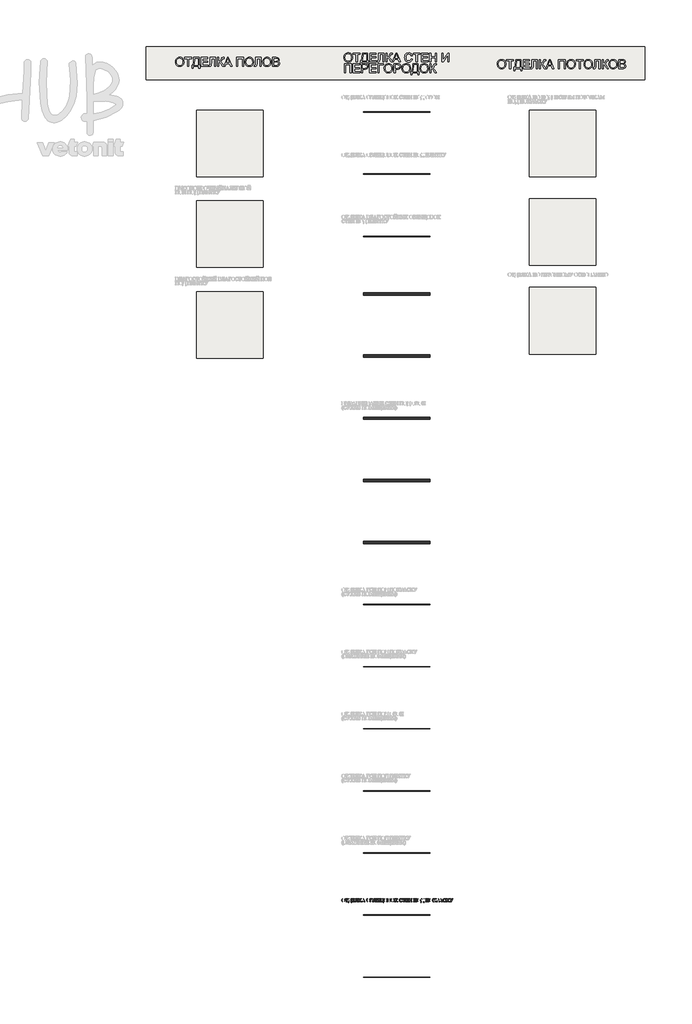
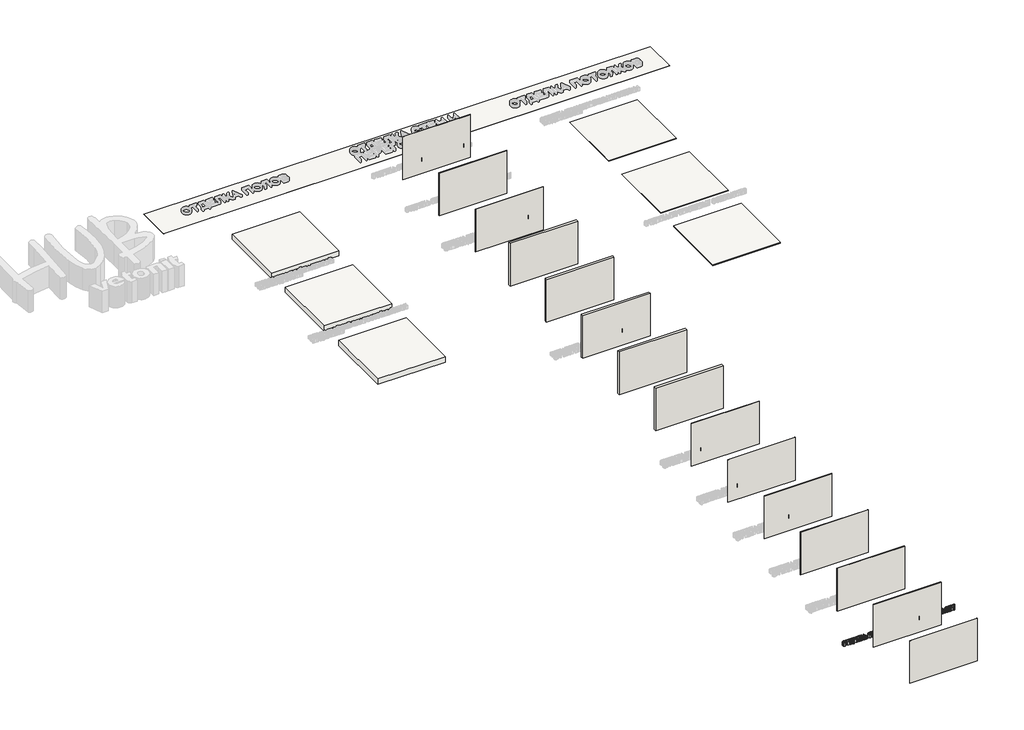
# One storey, part 1 of 17: 15 walls, 6 slabs, 1 covering, 1 proxy.
"""IFC4 building model written with IfcOpenShell, lengths in millimetres."""

from ifc_helpers import new_model, si_unit, frame, origin, origin_with_axes, place, context, project, spatial, polyline, outline, extrude, element, save

model = new_model("IFC4")

# Units and contexts
model_context = context("Model", 3, world=origin())
ifc_project = project(units=[si_unit("LENGTHUNIT", "METRE", prefix="MILLI")], contexts=[model_context])

# Site, building, storey
site = spatial("IfcSite", under=ifc_project)
building = spatial("IfcBuilding", under=site)
storey = spatial("IfcBuildingStorey", under=building, Name="Уровень 1", Elevation=0.0)

# Proxy
placement = place(None, origin())
element("IfcBuildingElementProxy", 1, Name="SG_Текст 2", ObjectType="SG_Текст 2", at=placement, inside=storey, context=model_context, shape_type="SweptSolid", body=[
    extrude(outline(polyline([(-694.4542029, -18582.7236426), (-666.748358, -18588.1843591), (-643.0048009, -18604.5665084), (-626.682991, -18629.1145909), (-621.2423877, -18659.0731071), (-626.7232173, -18689.8814032), (-643.165706, -18714.9675122), (-667.3919784, -18731.6362737), (-696.2241589, -18737.1925275), (-725.2021597, -18731.7720373), (-749.1418199, -18715.5105669), (-765.2071873, -18690.6406741), (-770.5623098, -18659.3949173), (-769.0161124, -18642.6230759), (-764.3775204, -18627.4653138), (-756.6465337, -18613.9216308), (-745.8231524, -18601.992027), (-722.2405004, -18587.5407387), (-694.4542029, -18582.7236426)]), holes=[polyline([(-696.5861954, -18590.4470869), (-715.0299411, -18594.1277908), (-729.4108334, -18605.1699025), (-740.9658301, -18627.7670108), (-744.8174956, -18658.8719757), (-740.8250381, -18690.9122015), (-728.8476656, -18714.6255889), (-714.6176218, -18725.7582097), (-696.4655165, -18729.4690833), (-676.8552089, -18725.4062298), (-660.9859445, -18713.2176693), (-650.4868875, -18692.2698381), (-646.9872019, -18661.9291724), (-650.8388674, -18628.7827242), (-662.3938641, -18605.2905813), (-677.1166797, -18594.1579605), (-696.5861954, -18590.4470869)])]), origin_with_axes(), (0.0, 0.0, 1.0), 150.0),
    extrude(outline(polyline([(-482.2203913, -18585.2981241), (-479.6459099, -18618.7663824), (-483.8294422, -18618.7663824), (-487.2486753, -18605.4917127), (-496.6012836, -18596.0586518), (-512.028059, -18593.0215683), (-533.7100196, -18593.0215683), (-533.7100196, -18708.873232), (-530.813728, -18727.1359595), (-518.1826786, -18732.0435647), (-513.1141683, -18732.0435647), (-513.1141683, -18734.6180461), (-574.9017223, -18734.6180461), (-574.9017223, -18732.0435647), (-569.7527594, -18732.0435647), (-561.8784667, -18730.5250229), (-556.679221, -18725.9693976), (-554.3058709, -18708.873232), (-554.3058709, -18593.0215683), (-572.1663357, -18593.0215683), (-586.9696039, -18594.5501666), (-596.744588, -18602.6155342), (-601.5717407, -18618.7663824), (-605.7954992, -18618.7663824), (-603.2210178, -18585.2981241), (-482.2203913, -18585.2981241)])), origin_with_axes(), (0.0, 0.0, 1.0), 150.0),
    extrude(outline(polyline([(-448.7521329, -18585.2981241), (-325.1770251, -18585.2981241), (-325.1770251, -18590.4470869), (-342.0921725, -18594.8317505), (-345.7728764, -18613.4162883), (-345.7728764, -18695.6387884), (-343.0173767, -18725.1246459), (-337.179539, -18729.3484045), (-325.1770251, -18730.756324), (-325.1770251, -18778.3842301), (-330.3259879, -18778.3842301), (-340.6038004, -18751.6136461), (-348.1763961, -18743.1409875), (-356.6943092, -18738.0372792), (-378.235478, -18734.6180461), (-415.0827432, -18734.6180461), (-436.0506875, -18738.0674489), (-450.6025415, -18748.4156574), (-459.6735658, -18762.8066063), (-464.1990214, -18778.3842301), (-469.3479843, -18778.3842301), (-469.3479843, -18730.756324), (-453.9966332, -18724.7123266), (-441.813101, -18709.6375311), (-432.837614, -18687.8147785), (-427.1103986, -18661.5269097), (-423.0073188, -18614.7437552), (-425.8633841, -18598.6532464), (-432.641511, -18592.1969297), (-448.7521329, -18590.4470869), (-448.7521329, -18585.2981241)]), holes=[polyline([(-410.1349117, -18593.0215683), (-414.0971995, -18648.9411148), (-420.5132899, -18685.2402971), (-429.4636355, -18708.8983734), (-441.0286887, -18726.8946019), (-386.6427688, -18726.8946019), (-369.2449061, -18724.3000073), (-366.3687277, -18707.3848599), (-366.3687277, -18593.0215683), (-410.1349117, -18593.0215683)])]), origin_with_axes(), (0.0, 0.0, 1.0), 150.0),
    extrude(outline(polyline([(-276.2618782, -18593.0215683), (-276.2618782, -18652.2346408), (-240.2191384, -18652.2346408), (-223.3643304, -18648.5740501), (-218.949497, -18641.9266586), (-217.0488056, -18631.6387895), (-214.4743242, -18631.6387895), (-214.4743242, -18680.5539364), (-217.0488056, -18680.5539364), (-220.1060023, -18667.6010768), (-226.5019796, -18661.9895118), (-240.2191384, -18659.9580851), (-276.2618782, -18659.9580851), (-276.2618782, -18709.919115), (-275.3366739, -18722.1479017), (-272.098459, -18725.6073611), (-263.3492448, -18726.8946019), (-236.7999052, -18726.8946019), (-217.5114078, -18725.0441933), (-205.9463545, -18717.7230118), (-191.3039915, -18696.0008249), (-186.1550287, -18696.0008249), (-199.7515086, -18734.6180461), (-317.4535808, -18734.6180461), (-317.4535808, -18732.0435647), (-312.3448443, -18732.0435647), (-302.6905389, -18729.3886307), (-298.0846308, -18723.8977446), (-296.8577295, -18708.873232), (-296.8577295, -18611.0429382), (-299.6333423, -18592.538853), (-312.3448443, -18587.8726055), (-317.4535808, -18587.8726055), (-317.4535808, -18585.2981241), (-201.6019172, -18585.2981241), (-199.0274357, -18618.7663824), (-204.1763986, -18618.7663824), (-209.4460402, -18601.7908956), (-218.0142362, -18594.751298), (-234.0242925, -18593.0215683), (-276.2618782, -18593.0215683)])), origin_with_axes(), (0.0, 0.0, 1.0), 150.0),
    extrude(outline(polyline([(-72.8778464, -18593.0215683), (-119.2185119, -18593.0215683), (-119.2185119, -18635.2189277), (-122.0041812, -18687.8902028), (-130.3611893, -18718.1453877), (-143.6157459, -18732.4307426), (-161.0940612, -18737.1925275), (-173.926242, -18733.2101266), (-178.4315844, -18723.958084), (-175.5352928, -18716.9788258), (-168.4956952, -18714.0221948), (-160.5711196, -18717.6827855), (-151.5202084, -18721.745639), (-142.6855134, -18717.7481532), (-135.650944, -18705.7556959), (-131.0500642, -18682.6105046), (-129.5164376, -18645.1548169), (-129.5164376, -18613.6978722), (-133.1971414, -18594.8719768), (-150.1122889, -18590.4470869), (-150.1122889, -18585.2981241), (-31.6861438, -18585.2981241), (-31.6861438, -18587.8726055), (-48.6012912, -18592.2773823), (-52.2819951, -18611.0429382), (-52.2819951, -18708.873232), (-48.6012912, -18727.6387879), (-31.6861438, -18732.0435647), (-31.6861438, -18734.6180461), (-93.4736977, -18734.6180461), (-93.4736977, -18732.0435647), (-76.5585503, -18727.6387879), (-72.8778464, -18708.873232), (-72.8778464, -18593.0215683)])), origin_with_axes(), (0.0, 0.0, 1.0), 150.0),
    extrude(outline(polyline([(121.4150478, -18730.5149663), (121.4150478, -18734.6180461), (82.4357901, -18734.6180461), (55.6450929, -18696.7852372), (30.7450305, -18665.8110077), (17.2290031, -18662.5325665), (17.2290031, -18708.873232), (20.8493676, -18727.6387879), (37.8248544, -18732.0435647), (37.8248544, -18734.6180461), (-23.9626996, -18734.6180461), (-23.9626996, -18732.0435647), (-7.0877784, -18727.6790142), (-3.3668482, -18708.873232), (-3.3668482, -18611.0429382), (-7.0475521, -18592.2773823), (-23.9626996, -18587.8726055), (-23.9626996, -18585.2981241), (37.8248544, -18585.2981241), (37.8248544, -18587.8726055), (20.8493676, -18592.2773823), (17.2290031, -18611.0429382), (17.2290031, -18654.8091223), (34.1039242, -18653.1799582), (44.6432075, -18646.2610394), (53.9153632, -18634.6155337), (62.6846905, -18614.1001349), (70.8908501, -18595.4753709), (81.1083232, -18586.4847991), (97.8424524, -18582.7236426), (110.7550857, -18585.8210656), (115.0592968, -18595.1133345), (111.6601768, -18602.6758736), (103.8763932, -18605.8939754), (93.3773362, -18601.8311219), (84.3666512, -18598.1705311), (78.2120316, -18601.9115744), (70.0460983, -18620.9788274), (57.8575379, -18644.3603481), (42.6922333, -18657.3031511), (53.3924217, -18666.0925916), (69.3220254, -18685.8638043), (98.4056202, -18721.4238288), (108.8644509, -18728.10139), (121.4150478, -18730.5149663)])), origin_with_axes(), (0.0, 0.0, 1.0), 150.0),
    extrude(outline(polyline([(226.6872019, -18685.7028992), (168.4395599, -18685.7028992), (158.8254809, -18708.0687065), (155.0844376, -18721.9869967), (158.3427656, -18728.4232002), (172.4219608, -18732.0435647), (172.4219608, -18734.6180461), (124.9549598, -18734.6180461), (124.9549598, -18732.0435647), (137.1032939, -18727.3773171), (149.6136646, -18704.005853), (201.9882708, -18582.7236426), (207.4992701, -18582.7236426), (256.6557746, -18705.9769404), (268.1202622, -18726.6934705), (282.440815, -18732.0435647), (282.440815, -18734.6180461), (223.4288739, -18734.6180461), (223.4288739, -18732.0435647), (235.5168686, -18728.7248972), (238.674631, -18721.8260916), (234.2497411, -18704.6896997), (226.6872019, -18685.7028992)]), holes=[polyline([(223.5897789, -18677.979455), (198.7299428, -18617.3584629), (171.7783405, -18677.979455), (223.5897789, -18677.979455)])]), origin_with_axes(), (0.0, 0.0, 1.0), 150.0),
    extrude(outline(polyline([(430.5941752, -18582.7236426), (458.3000201, -18588.1843591), (482.0435772, -18604.5665084), (498.3653871, -18629.1145909), (503.8059904, -18659.0731071), (498.3251608, -18689.8814032), (481.8826721, -18714.9675122), (457.6563997, -18731.6362737), (428.8242192, -18737.1925275), (399.8462184, -18731.7720373), (375.9065583, -18715.5105669), (359.8411908, -18690.6406741), (354.4860684, -18659.3949173), (356.0322657, -18642.6230759), (360.6708577, -18627.4653138), (368.4018444, -18613.9216308), (379.2252257, -18601.992027), (402.8078777, -18587.5407387), (430.5941752, -18582.7236426)]), holes=[polyline([(428.4621828, -18590.4470869), (410.018437, -18594.1277908), (395.6375447, -18605.1699025), (384.0825481, -18627.7670108), (380.2308825, -18658.8719757), (384.22334, -18690.9122015), (396.2007125, -18714.6255889), (410.4307563, -18725.7582097), (428.5828616, -18729.4690833), (448.1931692, -18725.4062298), (464.0624336, -18713.2176693), (474.5614906, -18692.2698381), (478.0611763, -18661.9291724), (474.2095107, -18628.7827242), (462.654514, -18605.2905813), (447.9316985, -18594.1579605), (428.4621828, -18590.4470869)])]), origin_with_axes(), (0.0, 0.0, 1.0), 150.0),
    extrude(outline(polyline([(620.2208219, -18585.2981241), (622.2321355, -18618.7663824), (617.0831726, -18618.7663824), (612.6331413, -18605.1145914), (606.2824186, -18597.5470239), (596.1403697, -18594.1529322), (580.3163599, -18593.0215683), (555.2956187, -18593.0215683), (555.2956187, -18652.2346408), (561.4100121, -18652.2346408), (602.7223935, -18655.7142134), (614.6947377, -18660.7877519), (624.2233359, -18669.0492226), (630.4533798, -18679.8902029), (632.5300611, -18692.7022706), (629.4376665, -18708.3754318), (620.1604825, -18722.0071098), (603.3107027, -18731.465312), (577.5005209, -18734.6180461), (514.1039161, -18734.6180461), (514.1039161, -18732.0435647), (531.0190635, -18727.6387879), (534.6997674, -18708.873232), (534.6997674, -18611.0429382), (533.0706034, -18595.6966154), (527.7607354, -18590.0850504), (514.1039161, -18587.8726055), (514.1039161, -18585.2981241), (620.2208219, -18585.2981241)]), holes=[polyline([(555.2956187, -18725.3257772), (570.6620546, -18726.8946019), (583.8009608, -18724.6218175), (595.6224565, -18717.8034644), (603.9945494, -18706.9725406), (606.785247, -18692.6620443), (603.8688423, -18678.1655015), (595.1196281, -18667.9832264), (581.8851846, -18661.9643704), (565.5130918, -18659.9580851), (555.2956187, -18660.8430631), (555.2956187, -18725.3257772)])]), origin_with_axes(), (0.0, 0.0, 1.0), 150.0),
    extrude(outline(polyline([(750.9562062, -18593.0215683), (704.6155407, -18593.0215683), (704.6155407, -18635.2189277), (701.8298714, -18687.8902028), (693.4728634, -18718.1453877), (680.2183067, -18732.4307426), (662.7399915, -18737.1925275), (649.9078107, -18733.2101266), (645.4024682, -18723.958084), (648.2987598, -18716.9788258), (655.3383574, -18714.0221948), (663.262933, -18717.6827855), (672.3138442, -18721.745639), (681.1485392, -18717.7481532), (688.1831086, -18705.7556959), (692.7839884, -18682.6105046), (694.3176151, -18645.1548169), (694.3176151, -18613.6978722), (690.6369112, -18594.8719768), (673.7217638, -18590.4470869), (673.7217638, -18585.2981241), (792.1479088, -18585.2981241), (792.1479088, -18587.8726055), (775.2327614, -18592.2773823), (771.5520575, -18611.0429382), (771.5520575, -18708.873232), (775.2327614, -18727.6387879), (792.1479088, -18732.0435647), (792.1479088, -18734.6180461), (730.3603549, -18734.6180461), (730.3603549, -18732.0435647), (747.2755023, -18727.6387879), (750.9562062, -18708.873232), (750.9562062, -18593.0215683)])), origin_with_axes(), (0.0, 0.0, 1.0), 150.0),
    extrude(outline(polyline([(915.7230167, -18611.0429382), (911.6400501, -18591.8952327), (895.1271654, -18587.8726055), (895.1271654, -18585.2981241), (956.9147193, -18585.2981241), (956.9147193, -18587.8726055), (939.9995719, -18592.2773823), (936.318868, -18611.0429382), (936.318868, -18708.873232), (939.9995719, -18727.6387879), (956.9147193, -18732.0435647), (956.9147193, -18734.6180461), (895.1271654, -18734.6180461), (895.1271654, -18732.0435647), (912.1026522, -18727.5784485), (915.7230167, -18708.873232), (915.7230167, -18623.9153453), (841.0630557, -18708.873232), (842.2698439, -18723.6966132), (847.3785804, -18729.6299884), (861.658907, -18732.0435647), (861.658907, -18734.6180461), (799.8713531, -18734.6180461), (799.8713531, -18732.0435647), (816.7865005, -18727.6387879), (820.4672044, -18708.873232), (820.4672044, -18611.0429382), (816.7865005, -18592.2773823), (799.8713531, -18587.8726055), (799.8713531, -18585.2981241), (861.658907, -18585.2981241), (861.658907, -18587.8726055), (844.7236465, -18592.2773823), (841.0630557, -18611.0429382), (841.0630557, -18696.0008249), (915.7230167, -18611.0429382)])), origin_with_axes(), (0.0, 0.0, 1.0), 150.0),
    extrude(outline(polyline([(1121.6815299, -18729.4690833), (1121.6815299, -18778.3842301), (1116.532567, -18778.3842301), (1111.3634911, -18762.1026465), (1102.0511091, -18747.8524896), (1087.5394814, -18737.926657), (1066.7726685, -18734.6180461), (964.6381636, -18734.6180461), (964.6381636, -18732.0435647), (981.553311, -18727.6387879), (985.2340149, -18708.873232), (985.2340149, -18611.0429382), (981.553311, -18592.2773823), (964.6381636, -18587.8726055), (964.6381636, -18585.2981241), (1026.4257175, -18585.2981241), (1026.4257175, -18587.8726055), (1009.5105701, -18592.2773823), (1005.8298662, -18611.0429382), (1005.8298662, -18712.2120125), (1007.1372201, -18724.8832883), (1021.4778861, -18726.8946019), (1062.9109463, -18726.8946019), (1079.3031522, -18724.70227), (1080.4898272, -18710.1202464), (1080.4898272, -18611.0429382), (1076.8493496, -18592.2773823), (1059.8939759, -18587.8726055), (1059.8939759, -18585.2981241), (1121.6815299, -18585.2981241), (1121.6815299, -18587.8726055), (1104.7663825, -18592.2773823), (1101.0856786, -18611.0429382), (1101.0856786, -18706.6205607), (1104.545138, -18725.7079268), (1121.6815299, -18729.4690833)])), origin_with_axes(), (0.0, 0.0, 1.0), 150.0),
    extrude(outline(polyline([(1210.6620438, -18582.7236426), (1238.3678887, -18588.1843591), (1262.1114458, -18604.5665084), (1278.4332557, -18629.1145909), (1283.873859, -18659.0731071), (1278.3930294, -18689.8814032), (1261.9505407, -18714.9675122), (1237.7242683, -18731.6362737), (1208.8920878, -18737.1925275), (1179.914087, -18731.7720373), (1155.9744268, -18715.5105669), (1139.9090594, -18690.6406741), (1134.5539369, -18659.3949173), (1136.1001343, -18642.6230759), (1140.7387263, -18627.4653138), (1148.4697129, -18613.9216308), (1159.2930943, -18601.992027), (1182.8757463, -18587.5407387), (1210.6620438, -18582.7236426)]), holes=[polyline([(1208.5300513, -18590.4470869), (1190.0863056, -18594.1277908), (1175.7054133, -18605.1699025), (1164.1504166, -18627.7670108), (1160.2987511, -18658.8719757), (1164.2912086, -18690.9122015), (1176.2685811, -18714.6255889), (1190.4986249, -18725.7582097), (1208.6507302, -18729.4690833), (1228.2610378, -18725.4062298), (1244.1303021, -18713.2176693), (1254.6293592, -18692.2698381), (1258.1290448, -18661.9291724), (1254.2773793, -18628.7827242), (1242.7223826, -18605.2905813), (1227.999567, -18594.1579605), (1208.5300513, -18590.4470869)])]), origin_with_axes(), (0.0, 0.0, 1.0), 150.0),
    extrude(outline(polyline([(1393.7318081, -18659.2742385), (1407.4489669, -18663.5181102), (1417.223951, -18669.7330692), (1425.3396014, -18680.86569), (1428.0448182, -18694.2308689), (1426.2899471, -18704.9863684), (1421.0253337, -18715.2893224), (1412.7035237, -18724.0033385), (1401.7770625, -18729.9920248), (1364.4068557, -18734.6180461), (1294.1717846, -18734.6180461), (1294.1717846, -18732.0435647), (1299.5218788, -18732.0435647), (1307.1950402, -18730.5049098), (1312.3540596, -18725.8889451), (1314.767636, -18708.873232), (1314.767636, -18611.0429382), (1311.7104393, -18592.9008895), (1299.5218788, -18587.8726055), (1294.1717846, -18587.8726055), (1294.1717846, -18585.2981241), (1358.0511047, -18585.2981241), (1386.7324367, -18587.953058), (1401.1636119, -18593.5193684), (1411.7129517, -18602.1730452), (1418.1692684, -18613.1397326), (1420.3213739, -18625.645075), (1418.6368988, -18636.3955462), (1413.5834734, -18645.9593424), (1405.2516068, -18653.7732957), (1393.7318081, -18659.2742385)]), holes=[polyline([(1335.3634873, -18723.958084), (1360.9071701, -18726.8946019), (1378.7022672, -18724.6771286), (1391.7003813, -18718.0247089), (1399.6500984, -18708.1139611), (1402.300004, -18696.1215037), (1397.4527383, -18679.608619), (1391.1171004, -18672.508682), (1381.8047184, -18667.0982484), (1355.0743606, -18662.5325665), (1343.2679497, -18662.753811), (1335.3634873, -18663.497997), (1335.3634873, -18723.958084)]), polyline([(1335.3634873, -18653.2402976), (1344.7764349, -18654.4068595), (1356.4018276, -18654.8091223), (1380.8795142, -18651.3094366), (1387.7079238, -18646.8845466), (1391.8210602, -18640.6092482), (1394.5765598, -18624.8405495), (1392.012135, -18612.6167911), (1384.3188604, -18602.3339503), (1371.7079241, -18595.3496638), (1354.390514, -18593.0215683), (1335.3634873, -18595.4753709), (1335.3634873, -18653.2402976)])]), origin_with_axes(), (0.0, 0.0, 1.0), 150.0),
    extrude(outline(polyline([(1527.3232577, -18582.7236426), (1555.0291026, -18588.1843591), (1578.7726598, -18604.5665084), (1595.0944697, -18629.1145909), (1600.535073, -18659.0731071), (1595.0542434, -18689.8814032), (1578.6117547, -18714.9675122), (1554.3854823, -18731.6362737), (1525.5533018, -18737.1925275), (1496.575301, -18731.7720373), (1472.6356408, -18715.5105669), (1456.5702734, -18690.6406741), (1451.2151509, -18659.3949173), (1452.7613483, -18642.6230759), (1457.3999403, -18627.4653138), (1465.1309269, -18613.9216308), (1475.9543083, -18601.992027), (1499.5369603, -18587.5407387), (1527.3232577, -18582.7236426)]), holes=[polyline([(1525.1912653, -18590.4470869), (1506.7475196, -18594.1277908), (1492.3666273, -18605.1699025), (1480.8116306, -18627.7670108), (1476.9599651, -18658.8719757), (1480.9524226, -18690.9122015), (1492.9297951, -18714.6255889), (1507.1598388, -18725.7582097), (1525.3119441, -18729.4690833), (1544.9222518, -18725.4062298), (1560.7915161, -18713.2176693), (1571.2905731, -18692.2698381), (1574.7902588, -18661.9291724), (1570.9385933, -18628.7827242), (1559.3835966, -18605.2905813), (1544.660781, -18594.1579605), (1525.1912653, -18590.4470869)])]), origin_with_axes(), (0.0, 0.0, 1.0), 150.0),
    extrude(outline(polyline([(1756.210746, -18730.5149663), (1756.210746, -18734.6180461), (1717.2314883, -18734.6180461), (1690.4407911, -18696.7852372), (1665.5407287, -18665.8110077), (1652.0247012, -18662.5325665), (1652.0247012, -18708.873232), (1655.6450657, -18727.6387879), (1672.6205526, -18732.0435647), (1672.6205526, -18734.6180461), (1610.8329986, -18734.6180461), (1610.8329986, -18732.0435647), (1627.7079198, -18727.6790142), (1631.4288499, -18708.873232), (1631.4288499, -18611.0429382), (1627.748146, -18592.2773823), (1610.8329986, -18587.8726055), (1610.8329986, -18585.2981241), (1672.6205526, -18585.2981241), (1672.6205526, -18587.8726055), (1655.6450657, -18592.2773823), (1652.0247012, -18611.0429382), (1652.0247012, -18654.8091223), (1668.8996224, -18653.1799582), (1679.4389057, -18646.2610394), (1688.7110614, -18634.6155337), (1697.4803887, -18614.1001349), (1705.6865482, -18595.4753709), (1715.9040213, -18586.4847991), (1732.6381505, -18582.7236426), (1745.5507839, -18585.8210656), (1749.854995, -18595.1133345), (1746.455875, -18602.6758736), (1738.6720914, -18605.8939754), (1728.1730343, -18601.8311219), (1719.1623494, -18598.1705311), (1713.0077298, -18601.9115744), (1704.8417965, -18620.9788274), (1692.6532361, -18644.3603481), (1677.4879315, -18657.3031511), (1688.1881199, -18666.0925916), (1704.1177236, -18685.8638043), (1733.2013183, -18721.4238288), (1743.6601491, -18728.10139), (1756.210746, -18730.5149663)])), origin_with_axes(), (0.0, 0.0, 1.0), 150.0),
    extrude(outline(polyline([(1950.6645453, -18582.7236426), (1953.2390267, -18634.2132709), (1950.6645453, -18634.2132709), (1942.5539232, -18614.1856157), (1931.5771792, -18600.6846731), (1917.9354447, -18593.0064835), (1901.829851, -18590.4470869), (1887.966872, -18592.3025237), (1875.5017559, -18597.8688341), (1864.9926423, -18607.5030263), (1856.9976707, -18621.5621084), (1851.9442453, -18639.8198076), (1850.2597702, -18662.0498512), (1851.8637928, -18680.6746152), (1856.6758606, -18696.6444452), (1864.7160867, -18709.5771917), (1876.0045843, -18719.0907051), (1889.8223088, -18724.9436277), (1905.4502155, -18726.8946019), (1930.81288, -18721.2025844), (1942.3527919, -18712.6997561), (1954.9687564, -18698.5753063), (1958.3879896, -18701.1497877), (1946.2748534, -18717.3458905), (1932.3012521, -18728.5237659), (1915.9945271, -18735.0253371), (1896.8820195, -18737.1925275), (1879.4414164, -18735.4904534), (1864.0875512, -18730.384231), (1850.8204238, -18721.8738603), (1839.6400343, -18709.9593413), (1828.2962256, -18687.8952311), (1824.514956, -18662.2509826), (1827.0140132, -18641.0265958), (1834.5111846, -18621.6023346), (1846.3930198, -18605.1648742), (1862.0460679, -18592.9008895), (1880.3993045, -18585.2679544), (1900.3817052, -18582.7236426), (1932.2409127, -18588.6369046), (1938.8380213, -18590.4470869), (1944.0272104, -18588.8782623), (1948.0900639, -18582.7236426), (1950.6645453, -18582.7236426)])), origin_with_axes(), (0.0, 0.0, 1.0), 150.0),
    extrude(outline(polyline([(2099.9844674, -18585.2981241), (2102.5589488, -18618.7663824), (2098.3754165, -18618.7663824), (2094.9561833, -18605.4917127), (2085.6035751, -18596.0586518), (2070.1767997, -18593.0215683), (2048.4948391, -18593.0215683), (2048.4948391, -18708.873232), (2051.3911307, -18727.1359595), (2064.0221801, -18732.0435647), (2069.0906904, -18732.0435647), (2069.0906904, -18734.6180461), (2007.3031364, -18734.6180461), (2007.3031364, -18732.0435647), (2012.4520993, -18732.0435647), (2020.326392, -18730.5250229), (2025.5256377, -18725.9693976), (2027.8989878, -18708.873232), (2027.8989878, -18593.0215683), (2010.0385229, -18593.0215683), (1995.2352548, -18594.5501666), (1985.4602707, -18602.6155342), (1980.633118, -18618.7663824), (1976.4093595, -18618.7663824), (1978.9838409, -18585.2981241), (2099.9844674, -18585.2981241)])), origin_with_axes(), (0.0, 0.0, 1.0), 150.0),
    extrude(outline(polyline([(2151.4740957, -18593.0215683), (2151.4740957, -18652.2346408), (2187.5168355, -18652.2346408), (2204.3716435, -18648.5740501), (2208.7864768, -18641.9266586), (2210.6871682, -18631.6387895), (2213.2616496, -18631.6387895), (2213.2616496, -18680.5539364), (2210.6871682, -18680.5539364), (2207.6299715, -18667.6010768), (2201.2339942, -18661.9895118), (2187.5168355, -18659.9580851), (2151.4740957, -18659.9580851), (2151.4740957, -18709.919115), (2152.3992999, -18722.1479017), (2155.6375148, -18725.6073611), (2164.386729, -18726.8946019), (2190.9360686, -18726.8946019), (2210.2245661, -18725.0441933), (2221.7896193, -18717.7230118), (2236.4319823, -18696.0008249), (2241.5809452, -18696.0008249), (2227.9844652, -18734.6180461), (2110.282393, -18734.6180461), (2110.282393, -18732.0435647), (2115.3911296, -18732.0435647), (2125.0454349, -18729.3886307), (2129.651343, -18723.8977446), (2130.8782443, -18708.873232), (2130.8782443, -18611.0429382), (2128.1026316, -18592.538853), (2115.3911296, -18587.8726055), (2110.282393, -18587.8726055), (2110.282393, -18585.2981241), (2226.1340567, -18585.2981241), (2228.7085381, -18618.7663824), (2223.5595753, -18618.7663824), (2218.2899336, -18601.7908956), (2209.7217377, -18594.751298), (2193.7116814, -18593.0215683), (2151.4740957, -18593.0215683)])), origin_with_axes(), (0.0, 0.0, 1.0), 150.0),
    extrude(outline(polyline([(2290.496092, -18654.8091223), (2365.1560531, -18654.8091223), (2365.1560531, -18611.0429382), (2363.7883598, -18595.4753709), (2359.3232436, -18590.607992), (2349.6689383, -18587.8726055), (2344.5602017, -18587.8726055), (2344.5602017, -18585.2981241), (2406.3477557, -18585.2981241), (2406.3477557, -18587.8726055), (2401.2390191, -18587.8726055), (2391.5847138, -18590.4873132), (2386.9788057, -18595.9983124), (2385.7519044, -18611.0429382), (2385.7519044, -18708.873232), (2387.1195976, -18724.400573), (2391.5042613, -18729.3081782), (2401.2390191, -18732.0435647), (2406.3477557, -18732.0435647), (2406.3477557, -18734.6180461), (2344.5602017, -18734.6180461), (2344.5602017, -18732.0435647), (2349.6689383, -18732.0435647), (2357.2817603, -18730.6457017), (2362.5011191, -18726.4521129), (2365.1560531, -18708.873232), (2365.1560531, -18662.5325665), (2290.496092, -18662.5325665), (2290.496092, -18708.873232), (2291.8637853, -18724.400573), (2296.2886752, -18729.3081782), (2305.9027542, -18732.0435647), (2311.0919433, -18732.0435647), (2311.0919433, -18734.6180461), (2249.3043894, -18734.6180461), (2249.3043894, -18732.0435647), (2254.413126, -18732.0435647), (2262.0963439, -18730.6457017), (2267.3659856, -18726.4521129), (2269.9002407, -18708.873232), (2269.9002407, -18611.0429382), (2268.5325475, -18595.4753709), (2264.1478838, -18590.607992), (2254.413126, -18587.8726055), (2249.3043894, -18587.8726055), (2249.3043894, -18585.2981241), (2311.0919433, -18585.2981241), (2311.0919433, -18587.8726055), (2305.9027542, -18587.8726055), (2296.2886752, -18590.4873132), (2291.7632196, -18595.9983124), (2290.496092, -18611.0429382), (2290.496092, -18654.8091223)])), origin_with_axes(), (0.0, 0.0, 1.0), 150.0),
    extrude(outline(polyline([(2586.5614547, -18593.0215683), (2511.9014937, -18593.0215683), (2511.9014937, -18708.873232), (2515.5218582, -18727.6387879), (2532.497345, -18732.0435647), (2532.497345, -18734.6180461), (2470.709791, -18734.6180461), (2470.709791, -18732.0435647), (2487.6249385, -18727.6387879), (2491.3056424, -18708.873232), (2491.3056424, -18611.0429382), (2487.6249385, -18592.2773823), (2470.709791, -18587.8726055), (2470.709791, -18585.2981241), (2627.7531573, -18585.2981241), (2627.7531573, -18587.8726055), (2610.8380099, -18592.2773823), (2607.157306, -18611.0429382), (2607.157306, -18708.873232), (2610.8380099, -18727.6387879), (2627.7531573, -18732.0435647), (2627.7531573, -18734.6180461), (2565.9656034, -18734.6180461), (2565.9656034, -18732.0435647), (2582.8606377, -18727.6790142), (2586.5614547, -18708.873232), (2586.5614547, -18593.0215683)])), origin_with_axes(), (0.0, 0.0, 1.0), 150.0),
    extrude(outline(polyline([(2716.7336712, -18582.7236426), (2744.4395161, -18588.1843591), (2768.1830732, -18604.5665084), (2784.5048831, -18629.1145909), (2789.9454864, -18659.0731071), (2784.4646569, -18689.8814032), (2768.0221681, -18714.9675122), (2743.7958958, -18731.6362737), (2714.9637152, -18737.1925275), (2685.9857145, -18731.7720373), (2662.0460543, -18715.5105669), (2645.9806869, -18690.6406741), (2640.6255644, -18659.3949173), (2642.1717617, -18642.6230759), (2646.8103537, -18627.4653138), (2654.5413404, -18613.9216308), (2665.3647217, -18601.992027), (2688.9473738, -18587.5407387), (2716.7336712, -18582.7236426)]), holes=[polyline([(2714.6016788, -18590.4470869), (2696.157933, -18594.1277908), (2681.7770408, -18605.1699025), (2670.2220441, -18627.7670108), (2666.3703785, -18658.8719757), (2670.362836, -18690.9122015), (2682.3402086, -18714.6255889), (2696.5702523, -18725.7582097), (2714.7223576, -18729.4690833), (2734.3326653, -18725.4062298), (2750.2019296, -18713.2176693), (2760.7009866, -18692.2698381), (2764.2006723, -18661.9291724), (2760.3490067, -18628.7827242), (2748.7940101, -18605.2905813), (2734.0711945, -18594.1579605), (2714.6016788, -18590.4470869)])]), origin_with_axes(), (0.0, 0.0, 1.0), 150.0),
    extrude(outline(polyline([(2823.4137448, -18585.2981241), (2946.9888527, -18585.2981241), (2946.9888527, -18590.4470869), (2930.0737053, -18594.8317505), (2926.3930014, -18613.4162883), (2926.3930014, -18695.6387884), (2929.148501, -18725.1246459), (2934.9863388, -18729.3484045), (2946.9888527, -18730.756324), (2946.9888527, -18778.3842301), (2941.8398899, -18778.3842301), (2931.5620774, -18751.6136461), (2923.9894816, -18743.1409875), (2915.4715685, -18738.0372792), (2893.9303998, -18734.6180461), (2857.0831346, -18734.6180461), (2836.1151902, -18738.0674489), (2821.5633363, -18748.4156574), (2812.4923119, -18762.8066063), (2807.9668563, -18778.3842301), (2802.8178935, -18778.3842301), (2802.8178935, -18730.756324), (2818.1692446, -18724.7123266), (2830.3527768, -18709.6375311), (2839.3282637, -18687.8147785), (2845.0554792, -18661.5269097), (2849.158559, -18614.7437552), (2846.3024936, -18598.6532464), (2839.5243668, -18592.1969297), (2823.4137448, -18590.4470869), (2823.4137448, -18585.2981241)]), holes=[polyline([(2862.030966, -18593.0215683), (2858.0686782, -18648.9411148), (2851.6525878, -18685.2402971), (2842.7022423, -18708.8983734), (2831.1371891, -18726.8946019), (2885.5231089, -18726.8946019), (2902.9209716, -18724.3000073), (2905.7971501, -18707.3848599), (2905.7971501, -18593.0215683), (2862.030966, -18593.0215683)])]), origin_with_axes(), (0.0, 0.0, 1.0), 150.0),
    extrude(outline(polyline([(3127.2025517, -18593.0215683), (3052.5425907, -18593.0215683), (3052.5425907, -18708.873232), (3056.1629552, -18727.6387879), (3073.138442, -18732.0435647), (3073.138442, -18734.6180461), (3011.3508881, -18734.6180461), (3011.3508881, -18732.0435647), (3028.2660355, -18727.6387879), (3031.9467394, -18708.873232), (3031.9467394, -18611.0429382), (3028.2660355, -18592.2773823), (3011.3508881, -18587.8726055), (3011.3508881, -18585.2981241), (3168.3942544, -18585.2981241), (3168.3942544, -18587.8726055), (3151.4791069, -18592.2773823), (3147.798403, -18611.0429382), (3147.798403, -18708.873232), (3151.4791069, -18727.6387879), (3168.3942544, -18732.0435647), (3168.3942544, -18734.6180461), (3106.6067004, -18734.6180461), (3106.6067004, -18732.0435647), (3123.5017347, -18727.6790142), (3127.2025517, -18708.873232), (3127.2025517, -18593.0215683)])), origin_with_axes(), (0.0, 0.0, 1.0), 150.0),
    extrude(outline(polyline([(3257.3747682, -18582.7236426), (3285.0806132, -18588.1843591), (3308.8241703, -18604.5665084), (3325.1459802, -18629.1145909), (3330.5865835, -18659.0731071), (3325.1057539, -18689.8814032), (3308.6632652, -18714.9675122), (3284.4369928, -18731.6362737), (3255.6048123, -18737.1925275), (3226.6268115, -18731.7720373), (3202.6871513, -18715.5105669), (3186.6217839, -18690.6406741), (3181.2666614, -18659.3949173), (3182.8128588, -18642.6230759), (3187.4514508, -18627.4653138), (3195.1824374, -18613.9216308), (3206.0058188, -18601.992027), (3229.5884708, -18587.5407387), (3257.3747682, -18582.7236426)]), holes=[polyline([(3255.2427758, -18590.4470869), (3236.7990301, -18594.1277908), (3222.4181378, -18605.1699025), (3210.8631411, -18627.7670108), (3207.0114756, -18658.8719757), (3211.0039331, -18690.9122015), (3222.9813056, -18714.6255889), (3237.2113494, -18725.7582097), (3255.3634546, -18729.4690833), (3274.9737623, -18725.4062298), (3290.8430266, -18713.2176693), (3301.3420837, -18692.2698381), (3304.8417693, -18661.9291724), (3300.9901038, -18628.7827242), (3289.4351071, -18605.2905813), (3274.7122915, -18594.1579605), (3255.2427758, -18590.4470869)])]), origin_with_axes(), (0.0, 0.0, 1.0), 150.0),
    extrude(outline(polyline([(3486.2622565, -18730.5149663), (3486.2622565, -18734.6180461), (3447.2829988, -18734.6180461), (3420.4923016, -18696.7852372), (3395.5922392, -18665.8110077), (3382.0762118, -18662.5325665), (3382.0762118, -18708.873232), (3385.6965762, -18727.6387879), (3402.6720631, -18732.0435647), (3402.6720631, -18734.6180461), (3340.8845091, -18734.6180461), (3340.8845091, -18732.0435647), (3357.7594303, -18727.6790142), (3361.4803604, -18708.873232), (3361.4803604, -18611.0429382), (3357.7996565, -18592.2773823), (3340.8845091, -18587.8726055), (3340.8845091, -18585.2981241), (3402.6720631, -18585.2981241), (3402.6720631, -18587.8726055), (3385.6965762, -18592.2773823), (3382.0762118, -18611.0429382), (3382.0762118, -18654.8091223), (3398.9511329, -18653.1799582), (3409.4904162, -18646.2610394), (3418.7625719, -18634.6155337), (3427.5318992, -18614.1001349), (3435.7380587, -18595.4753709), (3445.9555319, -18586.4847991), (3462.689661, -18582.7236426), (3475.6022944, -18585.8210656), (3479.9065055, -18595.1133345), (3476.5073855, -18602.6758736), (3468.7236019, -18605.8939754), (3458.2245448, -18601.8311219), (3449.2138599, -18598.1705311), (3443.0592403, -18601.9115744), (3434.893307, -18620.9788274), (3422.7047466, -18644.3603481), (3407.539442, -18657.3031511), (3418.2396304, -18666.0925916), (3434.1692341, -18685.8638043), (3463.2528289, -18721.4238288), (3473.7116596, -18728.10139), (3486.2622565, -18730.5149663)])), origin_with_axes(), (0.0, 0.0, 1.0), 150.0),
    extrude(outline(polyline([(3533.9706152, -18664.3427487), (3533.9706152, -18708.873232), (3536.9473593, -18727.0152807), (3549.0554672, -18732.0435647), (3554.5664665, -18732.0435647), (3554.5664665, -18734.6180461), (3492.7789126, -18734.6180461), (3492.7789126, -18732.0435647), (3498.2094593, -18732.0435647), (3506.0334692, -18730.4445704), (3511.2427715, -18725.6475874), (3513.3747639, -18708.873232), (3513.3747639, -18611.0429382), (3510.5186986, -18592.9008895), (3498.2094593, -18587.8726055), (3492.7789126, -18587.8726055), (3492.7789126, -18585.2981241), (3549.7393139, -18585.2981241), (3582.6645176, -18589.421317), (3593.7619404, -18594.9624859), (3602.9586719, -18603.3396071), (3609.1434612, -18614.0347672), (3611.2050576, -18626.530053), (3607.936673, -18643.0881922), (3598.1315192, -18656.2371549), (3582.3628205, -18664.8204357), (3561.2038014, -18667.6815293), (3548.5325257, -18666.8367776), (3533.9706152, -18664.3427487)]), holes=[polyline([(3533.9706152, -18657.7456401), (3545.5155553, -18659.3949173), (3554.1239775, -18659.9580851), (3566.0359824, -18657.725527), (3576.1880878, -18651.0278527), (3583.1422046, -18640.7701533), (3585.4602435, -18627.8575199), (3581.0353536, -18609.7355844), (3568.5048698, -18597.1849875), (3550.0611241, -18593.0215683), (3533.9706152, -18595.1133345), (3533.9706152, -18657.7456401)])]), origin_with_axes(), (0.0, 0.0, 1.0), 150.0),
    extrude(outline(polyline([(3720.2584813, -18685.7028992), (3662.0108393, -18685.7028992), (3652.3967603, -18708.0687065), (3648.655717, -18721.9869967), (3651.914045, -18728.4232002), (3665.9932402, -18732.0435647), (3665.9932402, -18734.6180461), (3618.5262392, -18734.6180461), (3618.5262392, -18732.0435647), (3630.6745733, -18727.3773171), (3643.184944, -18704.005853), (3695.5595502, -18582.7236426), (3701.0705495, -18582.7236426), (3750.227054, -18705.9769404), (3761.6915416, -18726.6934705), (3776.0120944, -18732.0435647), (3776.0120944, -18734.6180461), (3717.0001533, -18734.6180461), (3717.0001533, -18732.0435647), (3729.088148, -18728.7248972), (3732.2459104, -18721.8260916), (3727.8210205, -18704.6896997), (3720.2584813, -18685.7028992)]), holes=[polyline([(3717.1610584, -18677.979455), (3692.3012222, -18617.3584629), (3665.3496199, -18677.979455), (3717.1610584, -18677.979455)])]), origin_with_axes(), (0.0, 0.0, 1.0), 150.0),
    extrude(outline(polyline([(3917.568346, -18582.7236426), (3920.1428274, -18634.2132709), (3917.568346, -18634.2132709), (3909.4577239, -18614.1856157), (3898.4809799, -18600.6846731), (3884.8392453, -18593.0064835), (3868.7336516, -18590.4470869), (3854.8706726, -18592.3025237), (3842.4055565, -18597.8688341), (3831.896443, -18607.5030263), (3823.9014714, -18621.5621084), (3818.8480459, -18639.8198076), (3817.1635708, -18662.0498512), (3818.7675934, -18680.6746152), (3823.5796612, -18696.6444452), (3831.6198873, -18709.5771917), (3842.9083849, -18719.0907051), (3856.7261094, -18724.9436277), (3872.3540161, -18726.8946019), (3897.7166807, -18721.2025844), (3909.2565925, -18712.6997561), (3921.8725571, -18698.5753063), (3925.2917902, -18701.1497877), (3913.178654, -18717.3458905), (3899.2050528, -18728.5237659), (3882.8983277, -18735.0253371), (3863.7858202, -18737.1925275), (3846.3452171, -18735.4904534), (3830.9913518, -18730.384231), (3817.7242245, -18721.8738603), (3806.543835, -18709.9593413), (3795.2000262, -18687.8952311), (3791.4187567, -18662.2509826), (3793.9178138, -18641.0265958), (3801.4149853, -18621.6023346), (3813.2968204, -18605.1648742), (3828.9498685, -18592.9008895), (3847.3031052, -18585.2679544), (3867.2855058, -18582.7236426), (3899.1447133, -18588.6369046), (3905.741822, -18590.4470869), (3910.9310111, -18588.8782623), (3914.9938645, -18582.7236426), (3917.568346, -18582.7236426)])), origin_with_axes(), (0.0, 0.0, 1.0), 150.0),
    extrude(outline(polyline([(4083.5419447, -18730.5149663), (4083.5419447, -18734.6180461), (4044.562687, -18734.6180461), (4017.7719898, -18696.7852372), (3992.8719273, -18665.8110077), (3979.3558999, -18662.5325665), (3979.3558999, -18708.873232), (3982.9762644, -18727.6387879), (3999.9517512, -18732.0435647), (3999.9517512, -18734.6180461), (3938.1641973, -18734.6180461), (3938.1641973, -18732.0435647), (3955.0391184, -18727.6790142), (3958.7600486, -18708.873232), (3958.7600486, -18611.0429382), (3955.0793447, -18592.2773823), (3938.1641973, -18587.8726055), (3938.1641973, -18585.2981241), (3999.9517512, -18585.2981241), (3999.9517512, -18587.8726055), (3982.9762644, -18592.2773823), (3979.3558999, -18611.0429382), (3979.3558999, -18654.8091223), (3996.2308211, -18653.1799582), (4006.7701043, -18646.2610394), (4016.0422601, -18634.6155337), (4024.8115874, -18614.1001349), (4033.0177469, -18595.4753709), (4043.23522, -18586.4847991), (4059.9693492, -18582.7236426), (4072.8819825, -18585.8210656), (4077.1861937, -18595.1133345), (4073.7870737, -18602.6758736), (4066.00329, -18605.8939754), (4055.504233, -18601.8311219), (4046.493548, -18598.1705311), (4040.3389284, -18601.9115744), (4032.1729952, -18620.9788274), (4019.9844347, -18644.3603481), (4004.8191302, -18657.3031511), (4015.5193185, -18666.0925916), (4031.4489223, -18685.8638043), (4060.532517, -18721.4238288), (4070.9913478, -18728.10139), (4083.5419447, -18730.5149663)])), origin_with_axes(), (0.0, 0.0, 1.0), 150.0),
    extrude(outline(polyline([(4090.0586007, -18585.2981241), (4151.8461547, -18585.2981241), (4151.8461547, -18590.4470869), (4138.3301273, -18592.7198713), (4133.8247848, -18598.3314362), (4145.7719876, -18623.9555715), (4178.8782095, -18680.9159728), (4203.335783, -18623.9555715), (4211.0592272, -18600.2622973), (4207.8411254, -18593.8260937), (4198.1868201, -18590.4470869), (4198.1868201, -18585.2981241), (4244.5274856, -18585.2981241), (4244.5274856, -18590.4470869), (4230.0158579, -18596.7726682), (4219.4665181, -18611.9681425), (4190.4633759, -18679.7091847), (4172.1000827, -18716.4961105), (4156.6733073, -18732.2044698), (4139.3357841, -18737.1925275), (4126.2823588, -18734.0951046), (4120.9523777, -18725.6475874), (4123.6877642, -18719.1711576), (4131.1296245, -18716.5966762), (4142.1113968, -18719.7745517), (4148.5878266, -18721.745639), (4157.7594167, -18716.9084298), (4167.9768898, -18702.3968021), (4113.5507436, -18608.8707195), (4103.0919129, -18595.6563891), (4090.0586007, -18590.4470869), (4090.0586007, -18585.2981241)])), origin_with_axes(), (0.0, 0.0, 1.0), 150.0),
])

# Covering
element("IfcCovering", 2, ObjectType="VETONIT_Отделка по подвесным потолкам под покраску", at=placement, inside=storey, context=model_context, shape_type="SweptSolid", body=[
    extrude(outline(polyline([(10687.9702065, 16964.3645162), (10687.9702065, 13964.3645162), (7687.9702065, 13964.3645162), (7687.9702065, 16964.3645162), (10687.9702065, 16964.3645162)])), origin_with_axes(), (0.0, 0.0, 1.0), 17.5),
])

# Slabs
element("IfcSlab", 3, ObjectType="1мм", at=placement, inside=storey, context=model_context, shape_type="SweptSolid", body=[
    extrude(outline(polyline([(12911.0223741, 19825.5687186), (12911.0223741, 18325.5687186), (-9588.9776259, 18325.5687186), (-9588.9776259, 19825.5687186), (12911.0223741, 19825.5687186)])), frame((0.0, 0.0, -1.0), z_axis=(0.0, 0.0, 1.0), x_axis=(1.0, 0.0, 0.0)), (0.0, 0.0, 1.0), 1.0),
])
element("IfcSlab", 4, ObjectType="VETONIT_ВЫСОКОПРОЧНЫЙ ВЛАГОСТОЙКИЙ НАЛИВНОЙ ПОЛ ПОД ПЛИТКУ", at=placement, inside=storey, context=model_context, shape_type="SweptSolid", body=[
    extrude(outline(polyline([(-4312.0297935, 12867.0894531), (-4312.0297935, 9867.0894531), (-7312.0297935, 9867.0894531), (-7312.0297935, 12867.0894531), (-4312.0297935, 12867.0894531)])), frame((0.0, 0.0, -241.0), z_axis=(0.0, 0.0, 1.0), x_axis=(1.0, 0.0, 0.0)), (0.0, 0.0, 1.0), 241.0),
])
element("IfcSlab", 5, ObjectType="VETONIT_ВЛАГОСТОЙКИЙ ПЛАВАЮЩИЙ ПОЛ (ПОД ПЛИТКУ)", at=placement, inside=storey, context=model_context, shape_type="SweptSolid", body=[
    extrude(outline(polyline([(-4312.0297935, 8769.8143901), (-4312.0297935, 5769.8143901), (-7312.0297935, 5769.8143901), (-7312.0297935, 8769.8143901), (-4312.0297935, 8769.8143901)])), frame((0.0, 0.0, -260.0), z_axis=(0.0, 0.0, 1.0), x_axis=(1.0, 0.0, 0.0)), (0.0, 0.0, 1.0), 260.0),
])
element("IfcSlab", 6, ObjectType="VETONIT_ВЫСОКОПРОЧНЫЙ НАЛИВНОЙ ПОЛ ПОД ЛИНОЛЕУМ, ЛАМИНАТ ИЛИ ПАРКЕТ", at=placement, inside=storey, context=model_context, shape_type="SweptSolid", body=[
    extrude(outline(polyline([(-4312.0297935, 16964.3645162), (-4312.0297935, 13964.3645162), (-7312.0297935, 13964.3645162), (-7312.0297935, 16964.3645162), (-4312.0297935, 16964.3645162)])), frame((0.0, 0.0, -237.0), z_axis=(0.0, 0.0, 1.0), x_axis=(1.0, 0.0, 0.0)), (0.0, 0.0, 1.0), 237.0),
])
element("IfcSlab", 7, ObjectType="VETONIT_Отделка по влагостойким подвесным потолкам под покраску", at=placement, inside=storey, context=model_context, shape_type="SweptSolid", body=[
    extrude(outline(polyline([(10687.9702065, 12964.3645162), (10687.9702065, 9964.3645162), (7687.9702065, 9964.3645162), (7687.9702065, 12964.3645162), (10687.9702065, 12964.3645162)])), frame((0.0, 0.0, -15.5), z_axis=(0.0, 0.0, 1.0), x_axis=(1.0, 0.0, 0.0)), (0.0, 0.0, 1.0), 15.5),
])
element("IfcSlab", 8, ObjectType="VETONIT_Отделка по бетонному основанию", at=placement, inside=storey, context=model_context, shape_type="SweptSolid", body=[
    extrude(outline(polyline([(10687.9702065, 8964.3645162), (10687.9702065, 5964.3645162), (7687.9702065, 5964.3645162), (7687.9702065, 8964.3645162), (10687.9702065, 8964.3645162)])), frame((0.0, 0.0, -53.0), z_axis=(0.0, 0.0, 1.0), x_axis=(1.0, 0.0, 0.0)), (0.0, 0.0, 1.0), 53.0),
])

# Walls
element("IfcWall", 9, ObjectType="VETONIT_Отделка облицовок стен под обои", at=placement, inside=storey, context=model_context, shape_type="SweptSolid", body=[
    extrude(outline(polyline([(3211.0223741, 16860.3565804), (211.0223741, 16860.3565804), (211.0223741, 16879.8565804), (3211.0223741, 16879.8565804), (3211.0223741, 16860.3565804)])), origin_with_axes(), (0.0, 0.0, 1.0), 2000.0),
])
element("IfcWall", 10, ObjectType="VETONIT_Отделка облицовок стен под плитку", at=placement, inside=storey, context=model_context, shape_type="SweptSolid", body=[
    extrude(outline(polyline([(3211.0223741, 14058.8565804), (211.0223741, 14058.8565804), (211.0223741, 14081.3565804), (3211.0223741, 14081.3565804), (3211.0223741, 14058.8565804)])), origin_with_axes(), (0.0, 0.0, 1.0), 2000.0),
])
element("IfcWall", 11, ObjectType="VETONIT_Отделка влагостойких облицовок стен под плитку", at=placement, inside=storey, context=model_context, shape_type="SweptSolid", body=[
    extrude(outline(polyline([(3211.0223741, 11258.8565804), (211.0223741, 11258.8565804), (211.0223741, 11281.3565804), (3211.0223741, 11281.3565804), (3211.0223741, 11258.8565804)])), origin_with_axes(), (0.0, 0.0, 1.0), 2000.0),
])
element("IfcWall", 12, ObjectType="VETONIT_Выравнивание стен под покраску (Сухие помещения)", at=placement, inside=storey, context=model_context, shape_type="SweptSolid", body=[
    extrude(outline(polyline([(3211.0223741, 8613.4148778), (211.0223741, 8613.4148778), (211.0223741, 8726.4148778), (3211.0223741, 8726.4148778), (3211.0223741, 8613.4148778)])), origin_with_axes(), (0.0, 0.0, 1.0), 2000.0),
])
element("IfcWall", 13, ObjectType="VETONIT_Выравнивание стен под покраску (Влажные помещения)", at=placement, inside=storey, context=model_context, shape_type="SweptSolid", body=[
    extrude(outline(polyline([(3211.0223741, 5815.2231751), (211.0223741, 5815.2231751), (211.0223741, 5924.2231751), (3211.0223741, 5924.2231751), (3211.0223741, 5815.2231751)])), origin_with_axes(), (0.0, 0.0, 1.0), 2000.0),
])
element("IfcWall", 14, ObjectType="VETONIT_Выравнивание стен под обои (Сухие помещения)", at=placement, inside=storey, context=model_context, shape_type="SweptSolid", body=[
    extrude(outline(polyline([(3211.0223741, 3017.0314725), (211.0223741, 3017.0314725), (211.0223741, 3122.0314725), (3211.0223741, 3122.0314725), (3211.0223741, 3017.0314725)])), origin_with_axes(), (0.0, 0.0, 1.0), 2000.0),
])
element("IfcWall", 15, ObjectType="VETONIT_Выравнивание стен под плитку (Влажные помещения)", at=placement, inside=storey, context=model_context, shape_type="SweptSolid", body=[
    extrude(outline(polyline([(3211.0223741, 216.8397699), (211.0223741, 216.8397699), (211.0223741, 321.8397699), (3211.0223741, 321.8397699), (3211.0223741, 216.8397699)])), origin_with_axes(), (0.0, 0.0, 1.0), 2000.0),
])
element("IfcWall", 16, ObjectType="VETONIT_Выравнивание стен под плитку (Сухие помещения)", at=placement, inside=storey, context=model_context, shape_type="SweptSolid", body=[
    extrude(outline(polyline([(3211.0223741, -2582.3519328), (211.0223741, -2582.3519328), (211.0223741, -2479.3519328), (3211.0223741, -2479.3519328), (3211.0223741, -2582.3519328)])), origin_with_axes(), (0.0, 0.0, 1.0), 2000.0),
])
element("IfcWall", 17, ObjectType="VETONIT_Отделка ГСП под покраску (Сухие помещения)", at=placement, inside=storey, context=model_context, shape_type="SweptSolid", body=[
    extrude(outline(polyline([(3211.0223741, -5339.7936354), (211.0223741, -5339.7936354), (211.0223741, -5322.2936354), (3211.0223741, -5322.2936354), (3211.0223741, -5339.7936354)])), origin_with_axes(), (0.0, 0.0, 1.0), 2000.0),
])
element("IfcWall", 18, ObjectType="VETONIT_Отделка ГСП под покраску (Влажные помещения)", at=placement, inside=storey, context=model_context, shape_type="SweptSolid", body=[
    extrude(outline(polyline([(3211.0223741, -8139.485338), (211.0223741, -8139.485338), (211.0223741, -8122.985338), (3211.0223741, -8122.985338), (3211.0223741, -8139.485338)])), origin_with_axes(), (0.0, 0.0, 1.0), 2000.0),
])
element("IfcWall", 19, ObjectType="VETONIT_Отделка ГСП под обои (Сухие помещения)", at=placement, inside=storey, context=model_context, shape_type="SweptSolid", body=[
    extrude(outline(polyline([(3211.0223741, -10938.6770406), (211.0223741, -10938.6770406), (211.0223741, -10924.1770406), (3211.0223741, -10924.1770406), (3211.0223741, -10938.6770406)])), origin_with_axes(), (0.0, 0.0, 1.0), 2000.0),
])
element("IfcWall", 20, ObjectType="VETONIT_Отделка ГСП под плитку (Сухие помещения)", at=placement, inside=storey, context=model_context, shape_type="SweptSolid", body=[
    extrude(outline(polyline([(3211.0223741, -13740.8687433), (211.0223741, -13740.8687433), (211.0223741, -13722.3687433), (3211.0223741, -13722.3687433), (3211.0223741, -13740.8687433)])), origin_with_axes(), (0.0, 0.0, 1.0), 2000.0),
])
element("IfcWall", 21, ObjectType="VETONIT_Отделка ГСП под плитку (Влажные помещения)", at=placement, inside=storey, context=model_context, shape_type="SweptSolid", body=[
    extrude(outline(polyline([(3211.0223741, -16542.0604459), (211.0223741, -16542.0604459), (211.0223741, -16521.5604459), (3211.0223741, -16521.5604459), (3211.0223741, -16542.0604459)])), origin_with_axes(), (0.0, 0.0, 1.0), 2000.0),
])
element("IfcWall", 22, ObjectType="VETONIT_Отделка облицовок стен под покраску", at=placement, inside=storey, context=model_context, shape_type="SweptSolid", body=[
    extrude(outline(polyline([(3211.0223741, -19340.7521485), (211.0223741, -19340.7521485), (211.0223741, -19323.2521485), (3211.0223741, -19323.2521485), (3211.0223741, -19340.7521485)])), origin_with_axes(), (0.0, 0.0, 1.0), 2000.0),
])
element("IfcWall", 23, ObjectType="VETONIT_Отделка влагостойких отделок стен под покраску", at=placement, inside=storey, context=model_context, shape_type="SweptSolid", body=[
    extrude(outline(polyline([(3211.0223741, -22140.4438512), (211.0223741, -22140.4438512), (211.0223741, -22123.9438512), (3211.0223741, -22123.9438512), (3211.0223741, -22140.4438512)])), origin_with_axes(), (0.0, 0.0, 1.0), 2000.0),
])

save(model, "model.ifc")
